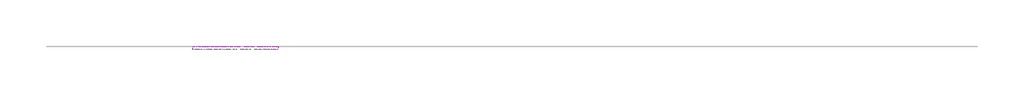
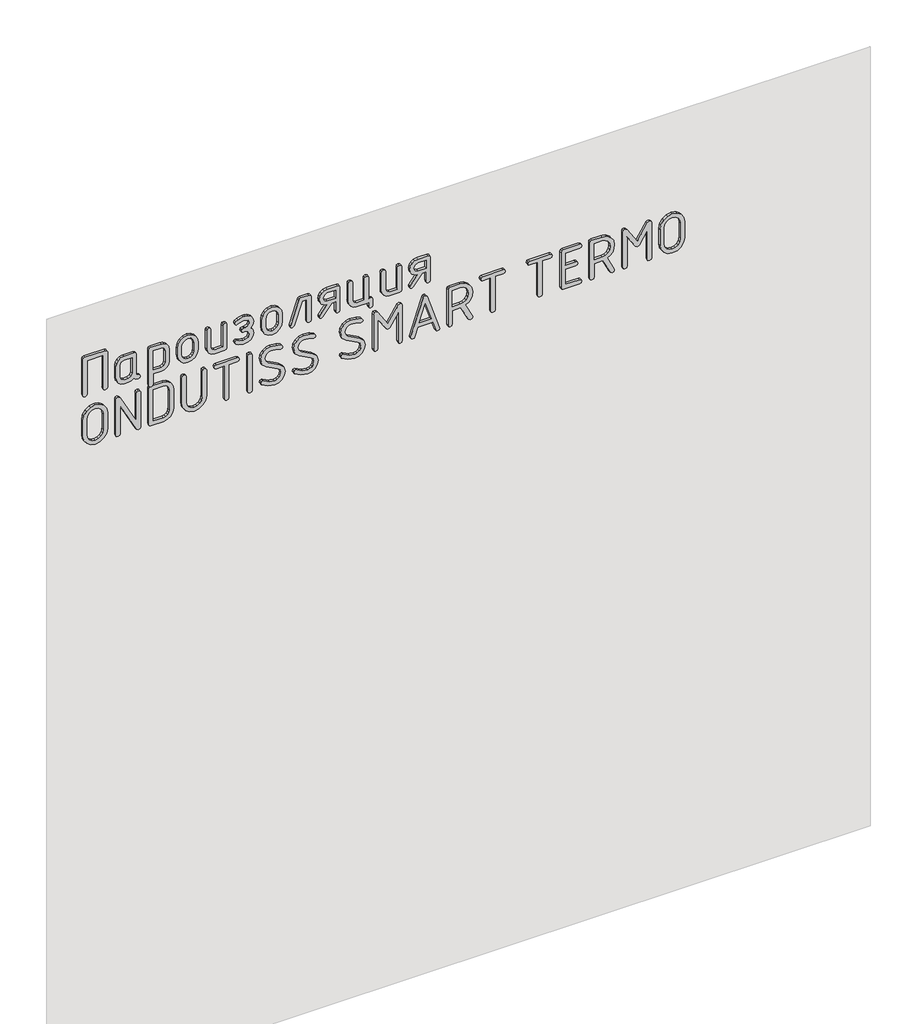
# One storey, part 34 of 42: 1 proxy.
"""IFC4 building model written with IfcOpenShell, lengths in millimetres."""

from ifc_helpers import new_model, si_unit, frame, origin, place, context, project, spatial, polyline, outline, extrude, element, save

model = new_model("IFC4")

# Units and contexts
model_context = context("Model", 3, world=origin())
ifc_project = project(units=[si_unit("LENGTHUNIT", "METRE", prefix="MILLI")], contexts=[model_context])

# Site, building, storey
site = spatial("IfcSite", under=ifc_project)
building = spatial("IfcBuilding", under=site)
storey = spatial("IfcBuildingStorey", under=building, Name="Этаж 01", Elevation=0.0)

# Proxy
placement = place(None, origin())
element("IfcBuildingElementProxy", 1, Name="150 мм GOST Common", ObjectType="150 мм GOST Common", at=placement, inside=storey, context=model_context, shape_type="SweptSolid", body=[
    extrude(outline(polyline([(2813.534126, -10703.1472358), (2811.6464128, -10708.750448), (2805.9832732, -10710.6181854), (2670.2277293, -10710.6181854), (2664.5645897, -10708.7005085), (2662.6768765, -10702.9474778), (2664.5546018, -10697.1944471), (2670.1877777, -10695.2767702), (2798.1927108, -10695.2767702), (2798.1927108, -10636.468012), (2670.1877777, -10636.468012), (2664.5546018, -10634.5503351), (2662.6768765, -10628.7973044), (2664.5645897, -10623.0442737), (2670.2277293, -10621.1265968), (2805.9832732, -10621.1265968), (2811.6464128, -10622.9943342), (2813.534126, -10628.5975464), (2813.534126, -10703.1472358)])), frame((0.0, -21838.3929597, 0.0), z_axis=(0.0, 1.0, 0.0), x_axis=(0.0, 0.0, 1.0)), (0.0, 0.0, 1.0), 10.0),
    extrude(outline(polyline([(2670.1478261, -10501.3117421), (2675.781002, -10503.1844735), (2677.6587273, -10508.8026675), (2679.5264647, -10514.4208616), (2685.1296769, -10516.2935929), (2760.0389308, -10516.2935929), (2765.642143, -10518.1513424), (2767.5098804, -10523.7245909), (2767.5098804, -10560.7996776), (2765.342506, -10572.2957511), (2758.8403827, -10581.8541719), (2749.1820829, -10588.2963678), (2737.5461788, -10590.4437664), (2692.6405781, -10590.4437664), (2681.004674, -10588.2963678), (2671.3463742, -10581.8541719), (2664.8442509, -10572.2957511), (2662.6768765, -10560.7996776), (2662.6768765, -10545.9376817), (2664.6644687, -10534.960979), (2670.6272453, -10525.8420258), (2664.6644687, -10518.2612093), (2662.6768765, -10508.7826917), (2664.5446139, -10503.1794795), (2670.1478261, -10501.3117421)]), holes=[polyline([(2752.1684652, -10531.6350081), (2692.8403361, -10531.6350081), (2682.3530405, -10535.8698779), (2678.0182917, -10546.1374397), (2678.0182917, -10560.5999196), (2682.3929921, -10570.8275298), (2692.8403361, -10575.1023512), (2737.3464208, -10575.1023512), (2747.8337163, -10570.8674814), (2752.1684652, -10560.5999196), (2752.1684652, -10531.6350081)])]), frame((0.0, -21838.3929597, 0.0), z_axis=(0.0, 1.0, 0.0), x_axis=(0.0, 0.0, 1.0)), (0.0, 0.0, 1.0), 10.0),
    extrude(outline(polyline([(2759.9590276, -10470.2693473), (2624.2034837, -10470.2693473), (2618.5403441, -10468.3516704), (2616.6526309, -10462.5986397), (2618.5703078, -10456.845609), (2624.3233385, -10454.9279321), (2662.6768765, -10454.9279321), (2662.6768765, -10425.523553), (2664.8592328, -10414.1323525), (2671.4063016, -10404.6488409), (2681.0795832, -10398.2515906), (2692.6405781, -10396.1191739), (2737.5461788, -10396.1191739), (2749.1820829, -10398.2665725), (2758.8403827, -10404.7087683), (2765.342506, -10414.2671891), (2767.5098804, -10425.7632626), (2767.5098804, -10462.8383493), (2765.6221672, -10468.4115978), (2759.9590276, -10470.2693473)]), holes=[polyline([(2752.1684652, -10454.9279321), (2752.1684652, -10425.9630206), (2747.8936437, -10415.6355315), (2737.3464208, -10411.4605891), (2692.8403361, -10411.4605891), (2682.3530405, -10415.6954589), (2678.0182917, -10425.9630206), (2678.0182917, -10454.9279321), (2752.1684652, -10454.9279321)])]), frame((0.0, -21838.3929597, 0.0), z_axis=(0.0, 1.0, 0.0), x_axis=(0.0, 0.0, 1.0)), (0.0, 0.0, 1.0), 10.0),
    extrude(outline(polyline([(2700.1115277, -10365.4363435), (2685.718963, -10362.7246285), (2673.6236155, -10354.5894835), (2665.4135613, -10342.6089968), (2662.6768765, -10328.3612568), (2665.4135613, -10314.1135167), (2673.6236155, -10302.13303), (2685.718963, -10293.997885), (2700.1115277, -10291.28617), (2730.0752292, -10291.28617), (2744.6176124, -10293.9679213), (2756.6829962, -10302.0131752), (2764.8031593, -10313.9636982), (2767.5098804, -10328.3612568), (2764.7731956, -10342.6089968), (2756.5631414, -10354.5894835), (2744.4677939, -10362.7246285), (2730.0752292, -10365.4363435), (2700.1115277, -10365.4363435)]), holes=[polyline([(2700.5509953, -10306.6275852), (2691.8914855, -10308.2206554), (2684.6103061, -10312.9998658), (2679.6662953, -10320.0263538), (2678.0182917, -10328.3612568), (2679.6563074, -10336.771069), (2684.5703545, -10343.7825752), (2691.841546, -10348.51684), (2700.5509953, -10350.0949283), (2730.5546484, -10350.0949283), (2739.1841945, -10348.5018582), (2746.4553861, -10343.7226478), (2751.3993968, -10336.6961597), (2753.0474004, -10328.3612568), (2751.3993968, -10320.0263538), (2746.4553861, -10312.9998658), (2739.1841945, -10308.2206554), (2730.5546484, -10306.6275852), (2700.5509953, -10306.6275852)])]), frame((0.0, -21838.3929597, 0.0), z_axis=(0.0, 1.0, 0.0), x_axis=(0.0, 0.0, 1.0)), (0.0, 0.0, 1.0), 10.0),
    extrude(outline(polyline([(2760.0389308, -10186.4531662), (2765.642143, -10188.3708431), (2767.5098804, -10194.1238738), (2765.642143, -10199.8769045), (2760.0389308, -10201.7945814), (2678.0182917, -10201.7945814), (2678.0182917, -10230.7594929), (2682.4329437, -10240.987103), (2692.9202393, -10245.2619244), (2760.0389308, -10245.2619244), (2765.642143, -10247.1796013), (2767.5098804, -10252.932632), (2765.642143, -10258.6856627), (2760.0389308, -10260.6033396), (2692.6405781, -10260.6033396), (2681.004674, -10258.455941), (2671.3463742, -10252.0137452), (2664.8442509, -10242.4553244), (2662.6768765, -10230.9592509), (2662.6768765, -10193.8841642), (2664.5446139, -10188.3109157), (2670.1478261, -10186.4531662), (2760.0389308, -10186.4531662)])), frame((0.0, -21838.3929597, 0.0), z_axis=(0.0, 1.0, 0.0), x_axis=(0.0, 0.0, 1.0)), (0.0, 0.0, 1.0), 10.0),
    extrude(outline(polyline([(2693.3996585, -10104.6322851), (2682.5128469, -10109.0069856), (2678.0182917, -10119.6540875), (2678.0182917, -10127.1649887), (2681.8336697, -10142.2067669), (2685.6490477, -10151.335708), (2682.9323388, -10155.450723), (2677.6587273, -10157.1686419), (2671.7059386, -10154.1223322), (2666.6320851, -10144.9834032), (2662.6768765, -10127.1649887), (2662.6768765, -10119.6540875), (2664.8991844, -10107.9682439), (2671.566108, -10098.1601256), (2681.4591234, -10091.5081838), (2693.3597069, -10089.2908699), (2707.1829612, -10091.9376636), (2716.3718297, -10099.8780445), (2725.0113637, -10091.9376636), (2738.3052592, -10089.2908699), (2749.6215505, -10091.5081838), (2759.0401407, -10098.1601256), (2765.3924455, -10107.9682439), (2767.5098804, -10119.6540875), (2767.5098804, -10127.1649887), (2763.434817, -10144.8635484), (2758.2710724, -10154.0923685), (2752.5280296, -10157.1686419), (2747.2743939, -10155.450723), (2744.5377092, -10151.4555628), (2748.3530872, -10142.5463555), (2752.1684652, -10127.1649887), (2752.1684652, -10119.6540875), (2748.1133776, -10108.967034), (2738.1055012, -10104.6322851), (2728.0976249, -10108.6673969), (2724.0425373, -10120.3332647), (2724.0425373, -10122.7303609), (2724.0425373, -10125.0076022), (2721.7852718, -10132.4186244), (2716.3318781, -10134.6359383), (2710.8984602, -10132.4785518), (2708.7011221, -10127.1649887), (2708.7011221, -10117.496701), (2704.7459135, -10108.6274453), (2693.3996585, -10104.6322851)])), frame((0.0, -21838.3929597, 0.0), z_axis=(0.0, 1.0, 0.0), x_axis=(0.0, 0.0, 1.0)), (0.0, 0.0, 1.0), 10.0),
    extrude(outline(polyline([(2700.1115277, -10058.6080395), (2685.718963, -10055.8963245), (2673.6236155, -10047.7611796), (2665.4135613, -10035.7806929), (2662.6768765, -10021.5329528), (2665.4135613, -10007.2852127), (2673.6236155, -9995.304726), (2685.718963, -9987.1695811), (2700.1115277, -9984.4578661), (2730.0752292, -9984.4578661), (2744.6176124, -9987.1396174), (2756.6829962, -9995.1848712), (2764.8031593, -10007.1353942), (2767.5098804, -10021.5329528), (2764.7731956, -10035.7806929), (2756.5631414, -10047.7611796), (2744.4677939, -10055.8963245), (2730.0752292, -10058.6080395), (2700.1115277, -10058.6080395)]), holes=[polyline([(2700.5509953, -9999.7992813), (2691.8914855, -10001.3923514), (2684.6103061, -10006.1715618), (2679.6662953, -10013.1980498), (2678.0182917, -10021.5329528), (2679.6563074, -10029.942765), (2684.5703545, -10036.9542712), (2691.841546, -10041.6885361), (2700.5509953, -10043.2666243), (2730.5546484, -10043.2666243), (2739.1841945, -10041.6735542), (2746.4553861, -10036.8943438), (2751.3993968, -10029.8678558), (2753.0474004, -10021.5329528), (2751.3993968, -10013.1980498), (2746.4553861, -10006.1715618), (2739.1841945, -10001.3923514), (2730.5546484, -9999.7992813), (2700.5509953, -9999.7992813)])]), frame((0.0, -21838.3929597, 0.0), z_axis=(0.0, 1.0, 0.0), x_axis=(0.0, 0.0, 1.0)), (0.0, 0.0, 1.0), 10.0),
    extrude(outline(polyline([(2767.5098804, -9917.4590294), (2765.9817316, -9922.0534636), (2761.3972852, -9924.9699306), (2672.5449222, -9954.6140193), (2670.2676809, -9954.9735837), (2664.5745776, -9953.0958584), (2662.6768765, -9947.4626826), (2667.75073, -9940.391249), (2752.1684652, -9912.1055147), (2752.1684652, -9894.9662774), (2670.1478261, -9894.9662774), (2664.5446139, -9893.0486005), (2662.6768765, -9887.2955698), (2664.5446139, -9881.5425391), (2670.1478261, -9879.6248622), (2760.0389308, -9879.6248622), (2765.642143, -9881.5425391), (2767.5098804, -9887.2955698), (2767.5098804, -9917.4590294)])), frame((0.0, -21838.3929597, 0.0), z_axis=(0.0, 1.0, 0.0), x_axis=(0.0, 0.0, 1.0)), (0.0, 0.0, 1.0), 10.0),
    extrude(outline(polyline([(2707.8221869, -9823.4129581), (2674.7023087, -9848.6623706), (2670.1478261, -9850.1405799), (2664.5446139, -9848.2628546), (2662.6768765, -9842.6296787), (2665.7531499, -9836.5969868), (2707.6623805, -9805.354834), (2707.6623805, -9790.1332736), (2670.1877777, -9790.1332736), (2664.5546018, -9788.2155967), (2662.6768765, -9782.462566), (2664.5446139, -9776.7095353), (2670.1478261, -9774.7918584), (2760.0389308, -9774.7918584), (2765.642143, -9776.7095353), (2767.5098804, -9782.462566), (2767.5098804, -9820.1369267), (2765.342506, -9831.752855), (2758.8403827, -9841.4311306), (2749.1820829, -9847.9632176), (2737.5461788, -9850.1405799), (2726.784216, -9848.2478727), (2717.5903536, -9842.5697513), (2710.9434058, -9833.9951387), (2707.8221869, -9823.4129581)]), holes=[polyline([(2737.1466628, -9835.1187775), (2747.7937647, -9830.7440771), (2752.1684652, -9820.1369267), (2752.1684652, -9790.1332736), (2722.164812, -9790.1332736), (2722.164812, -9820.1369267), (2726.5994398, -9830.6841497), (2737.1466628, -9835.1187775)])]), frame((0.0, -21838.3929597, 0.0), z_axis=(0.0, 1.0, 0.0), x_axis=(0.0, 0.0, 1.0)), (0.0, 0.0, 1.0), 10.0),
    extrude(outline(polyline([(2678.0182917, -9662.2881469), (2678.0182917, -9669.9588545), (2760.0389308, -9669.9588545), (2765.642143, -9671.8765314), (2767.5098804, -9677.6295621), (2765.642143, -9683.3825928), (2760.0389308, -9685.3002697), (2678.0182917, -9685.3002697), (2678.0182917, -9714.2651812), (2682.4329437, -9724.4927914), (2692.9202393, -9728.7676128), (2760.0389308, -9728.7676128), (2765.642143, -9730.6852897), (2767.5098804, -9736.4383204), (2765.642143, -9742.1913511), (2760.0389308, -9744.109028), (2692.6405781, -9744.109028), (2681.0795832, -9741.9616294), (2671.4063016, -9735.5194335), (2664.8592328, -9725.9610127), (2662.6768765, -9714.4649392), (2662.6768765, -9669.9588545), (2647.3354613, -9669.9588545), (2641.5824306, -9668.0411776), (2639.6647537, -9662.2881469), (2641.5824306, -9656.5351162), (2647.3354613, -9654.6174393), (2670.3475841, -9654.6174393), (2676.1006148, -9656.5351162), (2678.0182917, -9662.2881469)])), frame((0.0, -21838.3929597, 0.0), z_axis=(0.0, 1.0, 0.0), x_axis=(0.0, 0.0, 1.0)), (0.0, 0.0, 1.0), 10.0),
    extrude(outline(polyline([(2760.0389308, -9549.7844355), (2765.642143, -9551.7021124), (2767.5098804, -9557.4551431), (2765.642143, -9563.2081738), (2760.0389308, -9565.1258507), (2678.0182917, -9565.1258507), (2678.0182917, -9594.0907622), (2682.4329437, -9604.3183723), (2692.9202393, -9608.5931937), (2760.0389308, -9608.5931937), (2765.642143, -9610.5108706), (2767.5098804, -9616.2639013), (2765.642143, -9622.016932), (2760.0389308, -9623.9346089), (2692.6405781, -9623.9346089), (2681.004674, -9621.7872103), (2671.3463742, -9615.3450145), (2664.8442509, -9605.7865937), (2662.6768765, -9594.2905202), (2662.6768765, -9557.2154335), (2664.5446139, -9551.642185), (2670.1478261, -9549.7844355), (2760.0389308, -9549.7844355)])), frame((0.0, -21838.3929597, 0.0), z_axis=(0.0, 1.0, 0.0), x_axis=(0.0, 0.0, 1.0)), (0.0, 0.0, 1.0), 10.0),
    extrude(outline(polyline([(2707.8221869, -9493.5725314), (2674.7023087, -9518.8219439), (2670.1478261, -9520.3001532), (2664.5446139, -9518.4224279), (2662.6768765, -9512.789252), (2665.7531499, -9506.75656), (2707.6623805, -9475.5144072), (2707.6623805, -9460.2928468), (2670.1877777, -9460.2928468), (2664.5546018, -9458.3751699), (2662.6768765, -9452.6221392), (2664.5446139, -9446.8691085), (2670.1478261, -9444.9514316), (2760.0389308, -9444.9514316), (2765.642143, -9446.8691085), (2767.5098804, -9452.6221392), (2767.5098804, -9490.2965), (2765.342506, -9501.9124283), (2758.8403827, -9511.5907039), (2749.1820829, -9518.1227908), (2737.5461788, -9520.3001532), (2726.784216, -9518.407446), (2717.5903536, -9512.7293246), (2710.9434058, -9504.154712), (2707.8221869, -9493.5725314)]), holes=[polyline([(2737.1466628, -9505.2783508), (2747.7937647, -9500.9036503), (2752.1684652, -9490.2965), (2752.1684652, -9460.2928468), (2722.164812, -9460.2928468), (2722.164812, -9490.2965), (2726.5994398, -9500.8437229), (2737.1466628, -9505.2783508)])]), frame((0.0, -21838.3929597, 0.0), z_axis=(0.0, 1.0, 0.0), x_axis=(0.0, 0.0, 1.0)), (0.0, 0.0, 1.0), 10.0),
    extrude(outline(polyline([(2511.9177961, -10621.1265968), (2572.2447152, -10621.1265968), (2589.6885835, -10624.3876463), (2604.3058759, -10634.1707949), (2614.2088792, -10648.618293), (2617.5098804, -10665.8723911), (2614.1938974, -10683.05158), (2604.2459485, -10697.5140599), (2589.6136742, -10707.3421541), (2572.2447152, -10710.6181854), (2511.9177961, -10710.6181854), (2494.5488371, -10707.3421541), (2479.9165628, -10697.5140599), (2469.9686139, -10683.05158), (2466.6526309, -10665.8723911), (2469.9686139, -10648.6932022), (2479.9165628, -10634.2307223), (2494.5488371, -10624.4026281), (2511.9177961, -10621.1265968)]), holes=[polyline([(2512.0376509, -10636.468012), (2500.3917589, -10638.6004287), (2490.7034954, -10644.997679), (2484.1714084, -10654.4811906), (2481.9940461, -10665.8723911), (2484.1714084, -10677.2635916), (2490.7034954, -10686.7471032), (2500.3917589, -10693.1443535), (2512.0376509, -10695.2767702), (2572.1248604, -10695.2767702), (2583.7707524, -10693.1443535), (2593.4590159, -10686.7471032), (2599.9911029, -10677.2635916), (2602.1684652, -10665.8723911), (2599.9911029, -10654.4811906), (2593.4590159, -10644.997679), (2583.7707524, -10638.6004287), (2572.1248604, -10636.468012), (2512.0376509, -10636.468012)])]), frame((0.0, -21838.3929597, 0.0), z_axis=(0.0, 1.0, 0.0), x_axis=(0.0, 0.0, 1.0)), (0.0, 0.0, 1.0), 10.0),
    extrude(outline(polyline([(2503.3282016, -10516.2935929), (2613.0353009, -10575.1023512), (2617.5098804, -10582.453446), (2615.6221672, -10588.4461863), (2609.9590276, -10590.4437664), (2474.2034837, -10590.4437664), (2468.5403441, -10588.5260895), (2466.6526309, -10582.7730588), (2468.5403441, -10577.0200281), (2474.2034837, -10575.1023512), (2580.9541645, -10575.1023512), (2470.4080815, -10516.2935929), (2466.6526309, -10509.1023046), (2468.5403441, -10502.9897094), (2474.2034837, -10500.9521777), (2609.9590276, -10500.9521777), (2615.6221672, -10502.8698546), (2617.5098804, -10508.6228853), (2615.6221672, -10514.375916), (2609.9590276, -10516.2935929), (2503.3282016, -10516.2935929)])), frame((0.0, -21838.3929597, 0.0), z_axis=(0.0, 1.0, 0.0), x_axis=(0.0, 0.0, 1.0)), (0.0, 0.0, 1.0), 10.0),
    extrude(outline(polyline([(2609.9590276, -10470.2693473), (2474.2034837, -10470.2693473), (2468.5403441, -10468.4016099), (2466.6526309, -10462.7983977), (2466.6526309, -10418.0526034), (2469.4092915, -10403.7299541), (2477.6792731, -10391.684546), (2489.8645117, -10383.5044555), (2504.3669433, -10380.7777587), (2579.795568, -10380.7777587), (2594.4478181, -10383.4744918), (2606.603093, -10391.5646912), (2614.7831835, -10403.5801356), (2617.5098804, -10418.0526034), (2617.5098804, -10462.7983977), (2615.6221672, -10468.4016099), (2609.9590276, -10470.2693473)]), holes=[polyline([(2602.1684652, -10454.9279321), (2602.1684652, -10418.1724582), (2600.5204616, -10409.6977246), (2595.5764508, -10402.5713576), (2588.2952713, -10397.7322198), (2579.6357616, -10396.1191739), (2504.5267497, -10396.1191739), (2495.8672399, -10397.7322198), (2488.5860605, -10402.5713576), (2483.6420497, -10409.6977246), (2481.9940461, -10418.1724582), (2481.9940461, -10454.9279321), (2602.1684652, -10454.9279321)])]), frame((0.0, -21838.3929597, 0.0), z_axis=(0.0, 1.0, 0.0), x_axis=(0.0, 0.0, 1.0)), (0.0, 0.0, 1.0), 10.0),
    extrude(outline(polyline([(2609.9590276, -10260.6033396), (2615.6221672, -10262.5210165), (2617.5098804, -10268.2740472), (2615.6321551, -10274.0270779), (2609.9989792, -10275.9447548), (2512.1175541, -10275.9447548), (2500.4367044, -10278.0771716), (2490.7234712, -10284.4744219), (2484.1764024, -10293.9579334), (2481.9940461, -10305.349134), (2484.1764024, -10316.7403345), (2490.7234712, -10326.223846), (2500.4367044, -10332.6210963), (2512.1175541, -10334.7535131), (2609.9989792, -10334.7535131), (2615.6321551, -10336.67119), (2617.5098804, -10342.4242207), (2615.6221672, -10348.1772514), (2609.9590276, -10350.0949283), (2511.9177961, -10350.0949283), (2494.5488371, -10346.8188969), (2479.9165628, -10336.9908028), (2469.9686139, -10322.5283229), (2466.6526309, -10305.349134), (2469.9686139, -10288.1699451), (2479.9165628, -10273.7074651), (2494.5488371, -10263.879371), (2511.9177961, -10260.6033396), (2609.9590276, -10260.6033396)])), frame((0.0, -21838.3929597, 0.0), z_axis=(0.0, 1.0, 0.0), x_axis=(0.0, 0.0, 1.0)), (0.0, 0.0, 1.0), 10.0),
    extrude(outline(polyline([(2609.8391728, -10231.6384281), (2604.0861421, -10229.7607028), (2602.1684652, -10224.1275269), (2602.1684652, -10194.1238738), (2474.1635321, -10194.1238738), (2468.5303562, -10192.2061969), (2466.6526309, -10186.4531662), (2468.5303562, -10180.7001355), (2474.1635321, -10178.7824586), (2602.1684652, -10178.7824586), (2602.1684652, -10148.7788054), (2604.0861421, -10143.1755932), (2609.8391728, -10141.3078558), (2615.5922035, -10143.1755932), (2617.5098804, -10148.7788054), (2617.5098804, -10224.1275269), (2615.5922035, -10229.7607028), (2609.8391728, -10231.6384281)])), frame((0.0, -21838.3929597, 0.0), z_axis=(0.0, 1.0, 0.0), x_axis=(0.0, 0.0, 1.0)), (0.0, 0.0, 1.0), 10.0),
    extrude(outline(polyline([(2466.6526309, -10102.0753826), (2468.5403441, -10096.3223519), (2474.2034837, -10094.404675), (2609.9590276, -10094.404675), (2615.6221672, -10096.3223519), (2617.5098804, -10102.0753826), (2615.6221672, -10107.8284133), (2609.9590276, -10109.7460902), (2474.2034837, -10109.7460902), (2468.5403441, -10107.8284133), (2466.6526309, -10102.0753826)])), frame((0.0, -21838.3929597, 0.0), z_axis=(0.0, 1.0, 0.0), x_axis=(0.0, 0.0, 1.0)), (0.0, 0.0, 1.0), 10.0),
    extrude(outline(polyline([(2504.2870401, -9974.2302559), (2524.1429863, -9979.3140973), (2537.8463858, -9994.5656214), (2559.5001542, -10036.2351424), (2567.6602689, -10045.3441076), (2579.59581, -10048.3804294), (2588.2603137, -10046.7673835), (2595.556475, -10041.9282457), (2600.5154676, -10034.8018786), (2602.1684652, -10026.3271451), (2600.4904979, -10009.567448), (2595.456596, -9992.6878961), (2594.657564, -9989.5716711), (2596.8748779, -9984.2780839), (2602.1684652, -9982.06077), (2609.1599955, -9986.4953978), (2615.4224092, -10003.4648408), (2617.5098804, -10026.6467579), (2614.7432319, -10040.8195887), (2606.4432866, -10052.8150572), (2594.2680359, -10060.9951478), (2579.8754712, -10063.7218446), (2560.0494887, -10058.6979306), (2546.4359803, -10043.6261888), (2524.7822119, -10001.9167162), (2516.5322061, -9992.6579324), (2504.5667013, -9989.5716711), (2495.9021976, -9991.1996989), (2488.6060363, -9996.0837823), (2483.6470437, -10003.2750707), (2481.9940461, -10011.8247135), (2485.1901743, -10031.6007565), (2495.657494, -10052.0559768), (2497.0158485, -10056.2908466), (2494.7985346, -10061.5245065), (2489.5049473, -10063.7218446), (2483.3923522, -10060.4458132), (2470.8375612, -10037.5235815), (2466.6526309, -10011.5051007), (2469.4192794, -9997.2573606), (2477.7192247, -9985.1969707), (2489.8944754, -9976.9719346), (2504.2870401, -9974.2302559)])), frame((0.0, -21838.3929597, 0.0), z_axis=(0.0, 1.0, 0.0), x_axis=(0.0, 0.0, 1.0)), (0.0, 0.0, 1.0), 10.0),
    extrude(outline(polyline([(2504.2870401, -9854.0558369), (2524.1429863, -9859.1396783), (2537.8463858, -9874.3912024), (2559.5001542, -9916.0607233), (2567.6602689, -9925.1696886), (2579.59581, -9928.2060104), (2588.2603137, -9926.5929644), (2595.556475, -9921.7538266), (2600.5154676, -9914.6274596), (2602.1684652, -9906.152726), (2600.4904979, -9889.3930289), (2595.456596, -9872.5134771), (2594.657564, -9869.3972521), (2596.8748779, -9864.1036648), (2602.1684652, -9861.8863509), (2609.1599955, -9866.3209787), (2615.4224092, -9883.2904217), (2617.5098804, -9906.4723388), (2614.7432319, -9920.6451697), (2606.4432866, -9932.6406382), (2594.2680359, -9940.8207287), (2579.8754712, -9943.5474256), (2560.0494887, -9938.5235116), (2546.4359803, -9923.4517697), (2524.7822119, -9881.7422971), (2516.5322061, -9872.4835134), (2504.5667013, -9869.3972521), (2495.9021976, -9871.0252799), (2488.6060363, -9875.9093632), (2483.6470437, -9883.1006516), (2481.9940461, -9891.6502945), (2485.1901743, -9911.4263375), (2495.657494, -9931.8815577), (2497.0158485, -9936.1164276), (2494.7985346, -9941.3500874), (2489.5049473, -9943.5474256), (2483.3923522, -9940.2713942), (2470.8375612, -9917.3491625), (2466.6526309, -9891.3306816), (2469.4192794, -9877.0829415), (2477.7192247, -9865.0225517), (2489.8944754, -9856.7975156), (2504.2870401, -9854.0558369)])), frame((0.0, -21838.3929597, 0.0), z_axis=(0.0, 1.0, 0.0), x_axis=(0.0, 0.0, 1.0)), (0.0, 0.0, 1.0), 10.0),
    extrude(outline(polyline([(2504.2870401, -9682.7433672), (2524.1429863, -9687.8272086), (2537.8463858, -9703.0787327), (2559.5001542, -9744.7482536), (2567.6602689, -9753.8572189), (2579.59581, -9756.8935406), (2588.2603137, -9755.2804947), (2595.556475, -9750.4413569), (2600.5154676, -9743.3149899), (2602.1684652, -9734.8402563), (2600.4904979, -9718.0805592), (2595.456596, -9701.2010074), (2594.657564, -9698.0847824), (2596.8748779, -9692.7911951), (2602.1684652, -9690.5738812), (2609.1599955, -9695.008509), (2615.4224092, -9711.977952), (2617.5098804, -9735.1598691), (2614.7432319, -9749.3327), (2606.4432866, -9761.3281685), (2594.2680359, -9769.508259), (2579.8754712, -9772.2349558), (2560.0494887, -9767.2110419), (2546.4359803, -9752.1393), (2524.7822119, -9710.4298274), (2516.5322061, -9701.1710437), (2504.5667013, -9698.0847824), (2495.9021976, -9699.7128102), (2488.6060363, -9704.5968935), (2483.6470437, -9711.7881819), (2481.9940461, -9720.3378247), (2485.1901743, -9740.1138678), (2495.657494, -9760.569088), (2497.0158485, -9764.8039579), (2494.7985346, -9770.0376177), (2489.5049473, -9772.2349558), (2483.3923522, -9768.9589245), (2470.8375612, -9746.0366928), (2466.6526309, -9720.0182119), (2469.4192794, -9705.7704718), (2477.7192247, -9693.710082), (2489.8944754, -9685.4850459), (2504.2870401, -9682.7433672)])), frame((0.0, -21838.3929597, 0.0), z_axis=(0.0, 1.0, 0.0), x_axis=(0.0, 0.0, 1.0)), (0.0, 0.0, 1.0), 10.0),
    extrude(outline(polyline([(2617.5098804, -9555.5374662), (2614.1938974, -9562.5689481), (2555.7846552, -9599.7638897), (2613.7544298, -9636.7191216), (2617.5098804, -9643.91041), (2615.6221672, -9650.0230051), (2609.9590276, -9652.0605368), (2474.2034837, -9652.0605368), (2468.5403441, -9650.1428599), (2466.6526309, -9644.3898292), (2468.5403441, -9638.6367985), (2474.2034837, -9636.7191216), (2585.1490827, -9636.7191216), (2539.3245951, -9606.5956136), (2534.8100641, -9599.6440349), (2539.3245951, -9592.7723593), (2585.1490827, -9562.5689481), (2474.2034837, -9562.5689481), (2468.5403441, -9560.6512712), (2466.6526309, -9554.8982405), (2468.5403441, -9549.1452099), (2474.2034837, -9547.227533), (2609.9590276, -9547.227533), (2615.6221672, -9549.3050163), (2617.5098804, -9555.5374662)])), frame((0.0, -21838.3929597, 0.0), z_axis=(0.0, 1.0, 0.0), x_axis=(0.0, 0.0, 1.0)), (0.0, 0.0, 1.0), 10.0),
    extrude(outline(polyline([(2474.2034837, -9411.8715051), (2476.6005798, -9412.2310695), (2611.6769465, -9457.0168155), (2616.0516469, -9459.8134276), (2617.5098804, -9464.3679102), (2615.9917195, -9468.9823203), (2611.4372369, -9471.8788114), (2476.6005798, -9516.5447026), (2474.2034837, -9516.904267), (2468.5403441, -9515.0265417), (2466.6526309, -9509.3933658), (2467.9610459, -9504.8688468), (2471.8862908, -9502.242029), (2505.0061689, -9491.4151448), (2505.0061689, -9437.3206756), (2471.8862908, -9426.5337431), (2467.9610459, -9423.9069252), (2466.6526309, -9419.3824063), (2468.5403441, -9413.7492304), (2474.2034837, -9411.8715051)]), holes=[polyline([(2586.5074372, -9464.3679102), (2520.3475841, -9442.3545775), (2520.3475841, -9486.4211946), (2586.5074372, -9464.3679102)])]), frame((0.0, -21838.3929597, 0.0), z_axis=(0.0, 1.0, 0.0), x_axis=(0.0, 0.0, 1.0)), (0.0, 0.0, 1.0), 10.0),
    extrude(outline(polyline([(2530.1756782, -9317.705579), (2536.8800565, -9306.256948), (2546.1263554, -9298.0793545), (2557.9145749, -9293.1727984), (2572.2447152, -9291.5372797), (2589.6885835, -9294.7983292), (2604.3058759, -9304.5814777), (2614.2088792, -9319.0289758), (2617.5098804, -9336.283074), (2617.5098804, -9373.5579187), (2615.6221672, -9379.1611309), (2609.9590276, -9381.0288683), (2474.2034837, -9381.0288683), (2468.5403441, -9379.1111914), (2466.6526309, -9373.3581607), (2468.4904046, -9367.60513), (2474.0037257, -9365.6874531), (2525.4613892, -9365.6874531), (2525.4613892, -9336.6026868), (2525.581244, -9333.9658811), (2470.7676459, -9306.8786949), (2466.6526309, -9299.5675517), (2468.9298722, -9293.9743274), (2474.2034837, -9291.5372797), (2477.6393215, -9291.5372797), (2530.1756782, -9317.705579)]), holes=[polyline([(2602.1684652, -9365.6874531), (2602.1684652, -9336.283074), (2599.9461573, -9324.8918734), (2593.2792337, -9315.4083619), (2583.3862182, -9309.0111116), (2571.4856348, -9306.8786949), (2559.5850513, -9309.0111116), (2549.6920358, -9315.4083619), (2543.0251122, -9324.8918734), (2540.8028044, -9336.283074), (2540.8028044, -9365.6874531), (2602.1684652, -9365.6874531)])]), frame((0.0, -21838.3929597, 0.0), z_axis=(0.0, 1.0, 0.0), x_axis=(0.0, 0.0, 1.0)), (0.0, 0.0, 1.0), 10.0),
    extrude(outline(polyline([(2609.8391728, -9262.5723682), (2604.0861421, -9260.6946429), (2602.1684652, -9255.061467), (2602.1684652, -9225.0578138), (2474.1635321, -9225.0578138), (2468.5303562, -9223.1401369), (2466.6526309, -9217.3871062), (2468.5303562, -9211.6340755), (2474.1635321, -9209.7163986), (2602.1684652, -9209.7163986), (2602.1684652, -9179.7127454), (2604.0861421, -9174.1095333), (2609.8391728, -9172.2417959), (2615.5922035, -9174.1095333), (2617.5098804, -9179.7127454), (2617.5098804, -9255.061467), (2615.5922035, -9260.6946429), (2609.8391728, -9262.5723682)])), frame((0.0, -21838.3929597, 0.0), z_axis=(0.0, 1.0, 0.0), x_axis=(0.0, 0.0, 1.0)), (0.0, 0.0, 1.0), 10.0),
    extrude(outline(polyline([(2609.8391728, -9091.2598984), (2604.0861421, -9089.3821731), (2602.1684652, -9083.7489973), (2602.1684652, -9053.7453441), (2474.1635321, -9053.7453441), (2468.5303562, -9051.8276672), (2466.6526309, -9046.0746365), (2468.5303562, -9040.3216058), (2474.1635321, -9038.4039289), (2602.1684652, -9038.4039289), (2602.1684652, -9008.4002757), (2604.0861421, -9002.7970635), (2609.8391728, -9000.9293262), (2615.5922035, -9002.7970635), (2617.5098804, -9008.4002757), (2617.5098804, -9083.7489973), (2615.5922035, -9089.3821731), (2609.8391728, -9091.2598984)])), frame((0.0, -21838.3929597, 0.0), z_axis=(0.0, 1.0, 0.0), x_axis=(0.0, 0.0, 1.0)), (0.0, 0.0, 1.0), 10.0),
    extrude(outline(polyline([(2474.2034837, -8969.3675605), (2468.5403441, -8967.4498836), (2466.6526309, -8961.6968529), (2466.6526309, -8901.5297402), (2468.5703078, -8895.8965643), (2474.3233385, -8894.018839), (2480.0763692, -8895.8965643), (2481.9940461, -8901.5297402), (2481.9940461, -8954.0261453), (2540.8028044, -8954.0261453), (2540.8028044, -8916.511591), (2542.7204813, -8910.9083788), (2548.473512, -8909.0406414), (2554.2265427, -8910.9083788), (2556.1442196, -8916.511591), (2556.1442196, -8954.0261453), (2602.1684652, -8954.0261453), (2602.1684652, -8901.5297402), (2604.0861421, -8895.8965643), (2609.8391728, -8894.018839), (2615.5922035, -8895.8965643), (2617.5098804, -8901.5297402), (2617.5098804, -8961.6968529), (2615.6221672, -8967.4498836), (2609.9590276, -8969.3675605), (2474.2034837, -8969.3675605)])), frame((0.0, -21838.3929597, 0.0), z_axis=(0.0, 1.0, 0.0), x_axis=(0.0, 0.0, 1.0)), (0.0, 0.0, 1.0), 10.0),
    extrude(outline(polyline([(2530.1756782, -8801.2112674), (2536.8800565, -8789.7626364), (2546.1263554, -8781.5850428), (2557.9145749, -8776.6784867), (2572.2447152, -8775.042968), (2589.6885835, -8778.3040175), (2604.3058759, -8788.0871661), (2614.2088792, -8802.5346642), (2617.5098804, -8819.7887623), (2617.5098804, -8857.0636071), (2615.6221672, -8862.6668193), (2609.9590276, -8864.5345567), (2474.2034837, -8864.5345567), (2468.5403441, -8862.6168798), (2466.6526309, -8856.8638491), (2468.4904046, -8851.1108184), (2474.0037257, -8849.1931415), (2525.4613892, -8849.1931415), (2525.4613892, -8820.1083752), (2525.581244, -8817.4715694), (2470.7676459, -8790.3843832), (2466.6526309, -8783.07324), (2468.9298722, -8777.4800157), (2474.2034837, -8775.042968), (2477.6393215, -8775.042968), (2530.1756782, -8801.2112674)]), holes=[polyline([(2602.1684652, -8849.1931415), (2602.1684652, -8819.7887623), (2599.9461573, -8808.3975618), (2593.2792337, -8798.9140502), (2583.3862182, -8792.5168), (2571.4856348, -8790.3843832), (2559.5850513, -8792.5168), (2549.6920358, -8798.9140502), (2543.0251122, -8808.3975618), (2540.8028044, -8819.7887623), (2540.8028044, -8849.1931415), (2602.1684652, -8849.1931415)])]), frame((0.0, -21838.3929597, 0.0), z_axis=(0.0, 1.0, 0.0), x_axis=(0.0, 0.0, 1.0)), (0.0, 0.0, 1.0), 10.0),
    extrude(outline(polyline([(2617.5098804, -8647.837067), (2614.1938974, -8654.868549), (2555.7846552, -8692.0634905), (2613.7544298, -8729.0187224), (2617.5098804, -8736.2100108), (2615.6221672, -8742.3226059), (2609.9590276, -8744.3601376), (2474.2034837, -8744.3601376), (2468.5403441, -8742.4424607), (2466.6526309, -8736.68943), (2468.5403441, -8730.9363993), (2474.2034837, -8729.0187224), (2585.1490827, -8729.0187224), (2539.3245951, -8698.8952144), (2534.8100641, -8691.9436357), (2539.3245951, -8685.0719601), (2585.1490827, -8654.868549), (2474.2034837, -8654.868549), (2468.5403441, -8652.9508721), (2466.6526309, -8647.1978414), (2468.5403441, -8641.4448107), (2474.2034837, -8639.5271338), (2609.9590276, -8639.5271338), (2615.6221672, -8641.6046171), (2617.5098804, -8647.837067)])), frame((0.0, -21838.3929597, 0.0), z_axis=(0.0, 1.0, 0.0), x_axis=(0.0, 0.0, 1.0)), (0.0, 0.0, 1.0), 10.0),
    extrude(outline(polyline([(2511.9177961, -8519.3527147), (2572.2447152, -8519.3527147), (2589.6885835, -8522.6137642), (2604.3058759, -8532.3969128), (2614.2088792, -8546.8444109), (2617.5098804, -8564.098509), (2614.1938974, -8581.2776979), (2604.2459485, -8595.7401779), (2589.6136742, -8605.568272), (2572.2447152, -8608.8443034), (2511.9177961, -8608.8443034), (2494.5488371, -8605.568272), (2479.9165628, -8595.7401779), (2469.9686139, -8581.2776979), (2466.6526309, -8564.098509), (2469.9686139, -8546.9193201), (2479.9165628, -8532.4568402), (2494.5488371, -8522.6287461), (2511.9177961, -8519.3527147)]), holes=[polyline([(2512.0376509, -8534.6941299), (2500.3917589, -8536.8265467), (2490.7034954, -8543.223797), (2484.1714084, -8552.7073085), (2481.9940461, -8564.098509), (2484.1714084, -8575.4897096), (2490.7034954, -8584.9732211), (2500.3917589, -8591.3704714), (2512.0376509, -8593.5028882), (2572.1248604, -8593.5028882), (2583.7707524, -8591.3704714), (2593.4590159, -8584.9732211), (2599.9911029, -8575.4897096), (2602.1684652, -8564.098509), (2599.9911029, -8552.7073085), (2593.4590159, -8543.223797), (2583.7707524, -8536.8265467), (2572.1248604, -8534.6941299), (2512.0376509, -8534.6941299)])]), frame((0.0, -21838.3929597, 0.0), z_axis=(0.0, 1.0, 0.0), x_axis=(0.0, 0.0, 1.0)), (0.0, 0.0, 1.0), 10.0),
])

save(model, "model.ifc")
